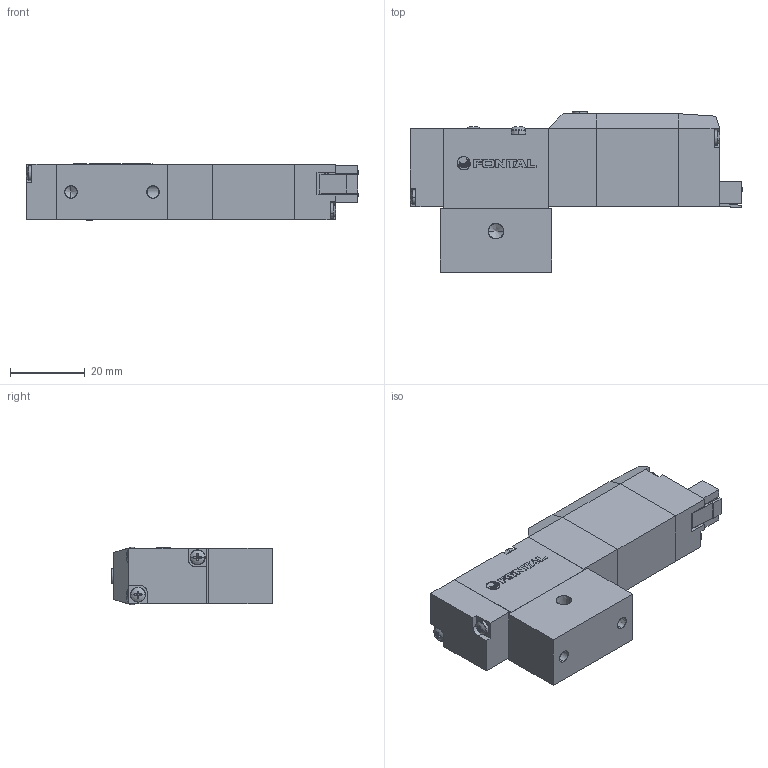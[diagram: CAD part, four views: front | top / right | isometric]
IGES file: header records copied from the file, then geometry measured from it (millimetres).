
Start section: SolidWorks IGES file using analytic representation for surfaces
Global section: file name: D:\Custom\3D繪製\PC\PC5\PCS245#-M5-#-SP-#.IGS,1; native system: 5HSolidWorks 2014; preprocessor: SolidWorks 2014; author: Chieh_Lu; date: 150729.232320; units: millimetre
Bounding box: 89.07 x 43 x 15.4 mm (x, y, z)
Surface area: 15785.5 mm2 (no closed solid volume)
Topology: 0 solids, 0 shells, 531 faces, 4584 edges, 4558 vertices
Faces by surface type: bspline 346, revolution 185
